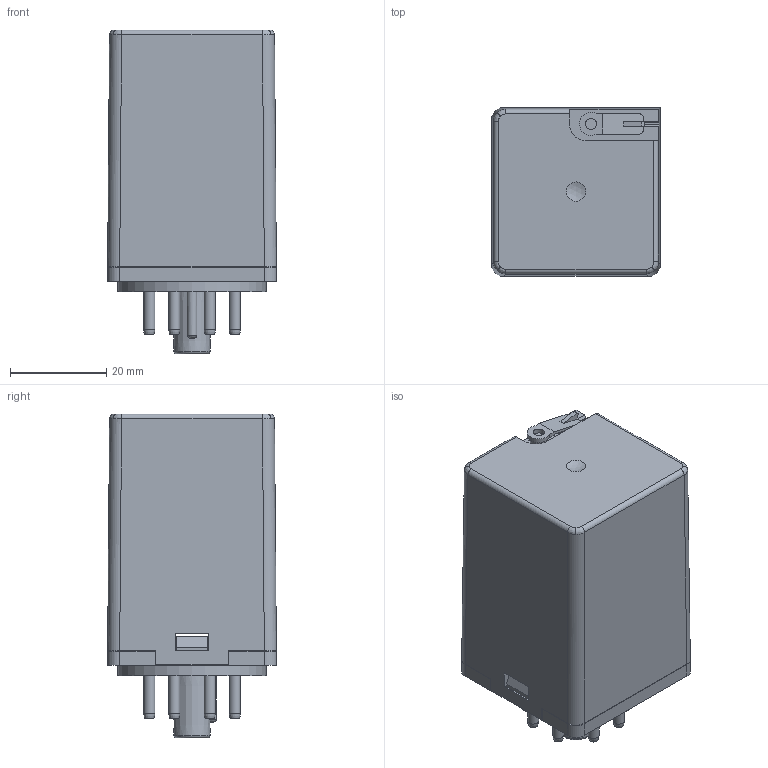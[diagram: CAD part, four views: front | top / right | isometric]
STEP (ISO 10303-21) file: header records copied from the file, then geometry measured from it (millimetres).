
FILE_DESCRIPTION(/* description */ ('STEP AP214'),/* implementation_level */ '2;1');
FILE_NAME(/* name */ 'I:\TI\Inventor\Panelen\Algemeen\Relais\Relpol relays 3D files\G08\G08.STP',/* time_stamp */ '2021-06-03T13:16:09+02:00',/* author */ ('nbinnendijk'),/* organization */ (''),/* preprocessor_version */ 'ST-DEVELOPER v18',/* originating_system */ 'Autodesk Inventor 2020',/* authorisation */ '');
FILE_SCHEMA (('AUTOMOTIVE_DESIGN { 1 0 10303 214 3 1 1 }'));
Length unit declared in the file: millimetre
Products named in the file (4): G08; G08-1; G08-2; G08-3
Assembly tree (10 placements, depth 2):
  G08
    G08-1
    G08-2
    G08-3  x8
Bounding box: 35.05 x 35.05 x 67.2 mm (x, y, z)
Volume: 16932.7 mm3; surface area: 22917.8 mm2
Topology: 11 solids, 11 shells, 464 faces, 1284 edges, 858 vertices
Faces by surface type: plane 254, cylinder 136, torus 36, bspline 25, cone 11, sphere 2
Full cylindrical faces by diameter (mm): 2.3 x1, 2.35 x8, 3.5 x1, 3.52 x1, 4.5 x1, 30.8 x1
Entity records: 13260 total; most frequent: CARTESIAN_POINT 2944, ORIENTED_EDGE 2148, DIRECTION 2117, EDGE_CURVE 1074, VERTEX_POINT 718, AXIS2_PLACEMENT_3D 709, LINE 699, VECTOR 699
